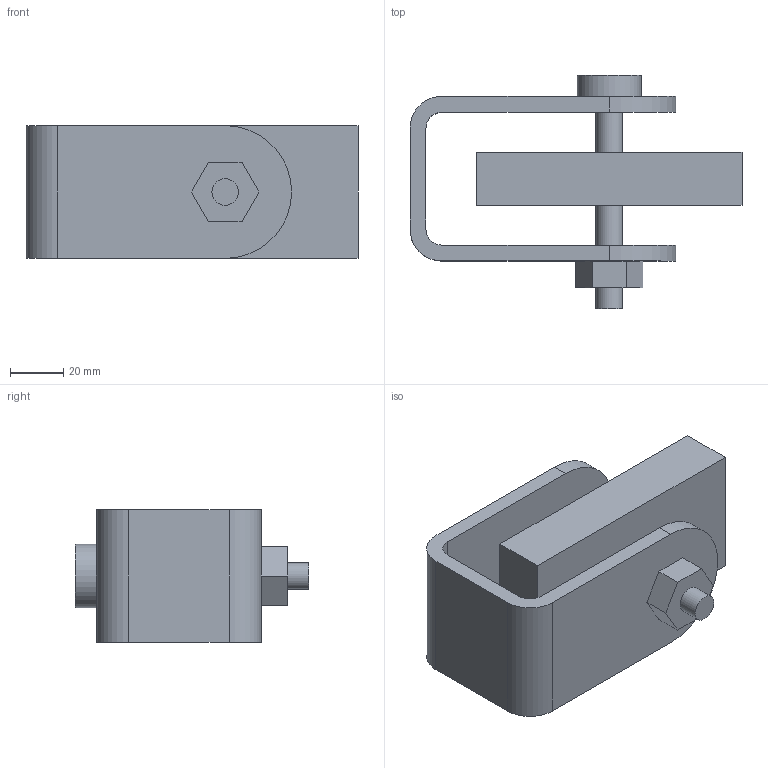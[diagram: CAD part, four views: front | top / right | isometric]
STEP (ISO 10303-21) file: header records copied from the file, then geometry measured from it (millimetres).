
FILE_DESCRIPTION( ( 'STEP Version 203' ), '1' );
FILE_NAME( 'C:/Users/konra/Desktop/ProjektyAnsys/2023.11.09 FEA Lab 5 new - old 13/FEA Lab 5 new - old 13_files/user_files/FEA-MES Lab 5 - CAD model.stp', '11/09/23 03:09:38', ( 'konra' ), ( ' ' ), 'PSStep 21.0.47', 'DesignModeler STEP Output', ' ' );
FILE_SCHEMA( ( 'CONFIG_CONTROL_DESIGN' ) );
Length unit declared in the file: metre
Products named in the file (4): 1; 2; 3; 4
Bounding box: 125 x 88 x 50 mm (x, y, z)
Volume: 180258.5 mm3; surface area: 48717 mm2
Topology: 4 solids, 4 shells, 39 faces, 90 edges, 60 vertices
Faces by surface type: plane 25, cylinder 14
Full cylindrical faces by diameter (mm): 10 x5, 24 x1
Entity records: 1211 total; most frequent: DIRECTION 198, CARTESIAN_POINT 187, ORIENTED_EDGE 168, EDGE_CURVE 84, AXIS2_PLACEMENT_3D 71, VERTEX_POINT 60, LINE 56, VECTOR 56
